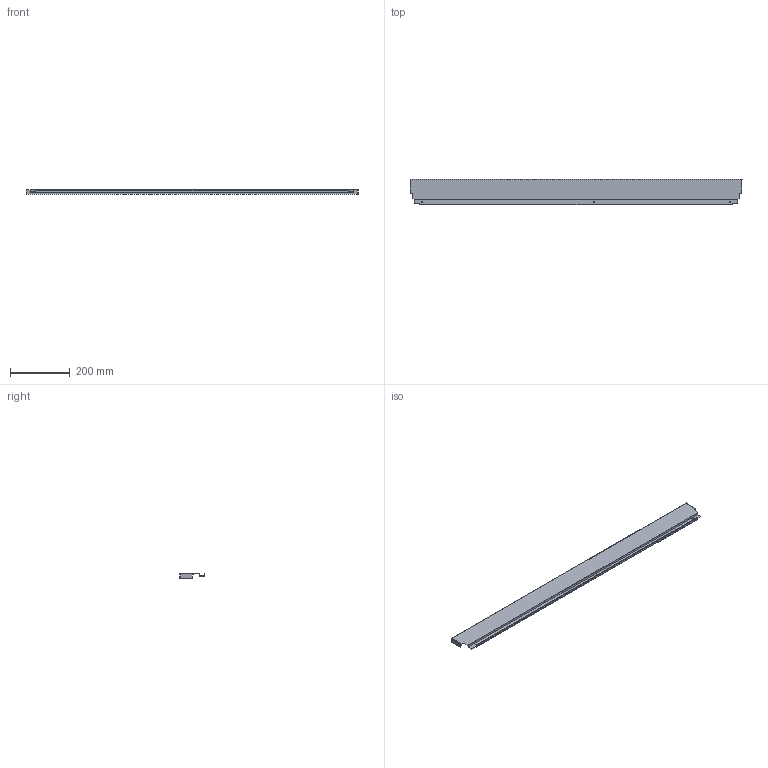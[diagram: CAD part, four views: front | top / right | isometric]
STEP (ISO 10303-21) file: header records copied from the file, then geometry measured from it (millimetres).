
FILE_DESCRIPTION (( 'STEP AP214' ), '1' );
FILE_NAME ('_DWD_XP Stahlrückwand_H86_KAB1200_S18.step', '2010-07-08T12:10:27', ( 'grass' ), ( '' ), 'SwSTEP 2.0', 'SolidWorks 2010', '' );
FILE_SCHEMA (( 'AUTOMOTIVE_DESIGN' ));
Length unit declared in the file: millimetre
Products named in the file (1): _DWD_XP Stahlrückwand_H86_KAB1200_S18
Bounding box: 1115 x 85.79 x 16 mm (x, y, z)
Volume: 119867.6 mm3; surface area: 259695.1 mm2
Topology: 1 solids, 1 shells, 50 faces, 144 edges, 96 vertices
Faces by surface type: plane 44, cylinder 6
Entity records: 1666 total; most frequent: CARTESIAN_POINT 291, ORIENTED_EDGE 288, DIRECTION 258, EDGE_CURVE 144, VECTOR 132, LINE 132, VERTEX_POINT 96, AXIS2_PLACEMENT_3D 63
